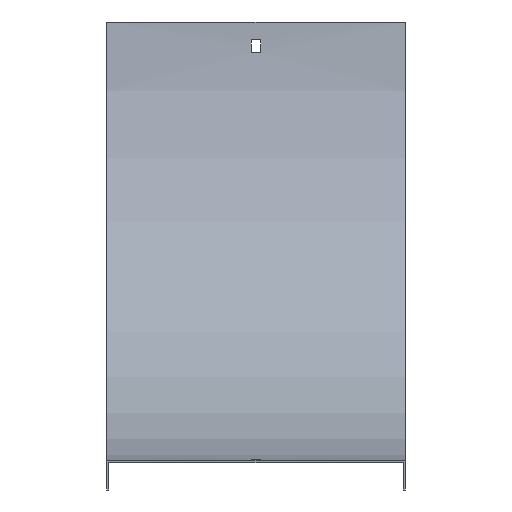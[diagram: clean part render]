
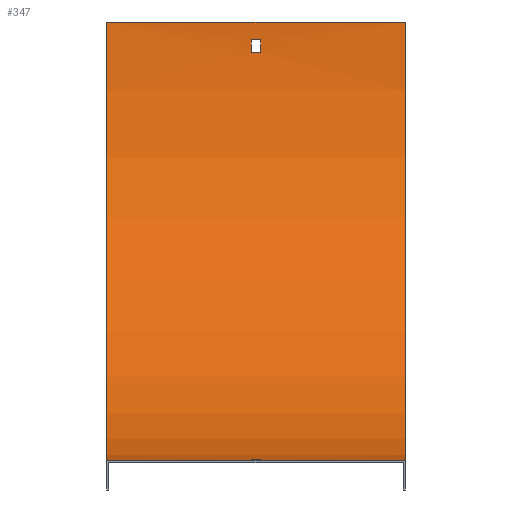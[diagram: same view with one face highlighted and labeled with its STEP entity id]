
A CAD part, top view. The second image highlights one B-rep face of the part: STEP entity #347.
In plain terms, the highlighted cylindrical face has radius 298.5 mm (diameter 597 mm), a partial arc.
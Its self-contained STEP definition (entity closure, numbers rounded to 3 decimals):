
#8 = EDGE_CURVE ( 'NONE', #482, #462, #427, .T. ) ;
#9 = VERTEX_POINT ( 'NONE', #394 ) ;
#14 = CARTESIAN_POINT ( 'NONE',  ( 101.5, 298.5, -298.5 ) ) ;
#15 = CIRCLE ( 'NONE', #145, 298.5 ) ;
#18 = CARTESIAN_POINT ( 'NONE',  ( 101.5, 298.5, 0. ) ) ;
#23 = CARTESIAN_POINT ( 'NONE',  ( -101.5, 298.5, 0. ) ) ;
#24 = CARTESIAN_POINT ( 'NONE',  ( 101.5, 0.241, -12. ) ) ;
#29 = FACE_BOUND ( 'NONE', #231, .T. ) ;
#38 = VECTOR ( 'NONE', #262, 1000. ) ;
#48 = LINE ( 'NONE', #526, #386 ) ;
#54 = EDGE_LOOP ( 'NONE', ( #458, #432, #478, #270 ) ) ;
#55 = EDGE_CURVE ( 'NONE', #412, #160, #346, .T. ) ;
#66 = DIRECTION ( 'NONE',  ( 0., 0., 1. ) ) ;
#93 = DIRECTION ( 'NONE',  ( 1., 0., 0. ) ) ;
#112 = CARTESIAN_POINT ( 'NONE',  ( 3.25, 277.5, -297.76 ) ) ;
#114 = DIRECTION ( 'NONE',  ( -1., 0., 0. ) ) ;
#124 = VECTOR ( 'NONE', #531, 1000. ) ;
#138 = CIRCLE ( 'NONE', #366, 298.5 ) ;
#139 = DIRECTION ( 'NONE',  ( -1., 0., 0. ) ) ;
#142 = ORIENTED_EDGE ( 'NONE', *, *, #215, .T. ) ;
#144 = ORIENTED_EDGE ( 'NONE', *, *, #269, .F. ) ;
#145 = AXIS2_PLACEMENT_3D ( 'NONE', #606, #93, #241 ) ;
#146 = LINE ( 'NONE', #468, #232 ) ;
#150 = VERTEX_POINT ( 'NONE', #452 ) ;
#155 = DIRECTION ( 'NONE',  ( 0., 0., -1. ) ) ;
#156 = ORIENTED_EDGE ( 'NONE', *, *, #555, .F. ) ;
#160 = VERTEX_POINT ( 'NONE', #594 ) ;
#182 = VERTEX_POINT ( 'NONE', #311 ) ;
#188 = DIRECTION ( 'NONE',  ( -1., 0., 0. ) ) ;
#198 = DIRECTION ( 'NONE',  ( -1., 0., 0. ) ) ;
#215 = EDGE_CURVE ( 'NONE', #510, #150, #146, .T. ) ;
#220 = EDGE_CURVE ( 'NONE', #462, #553, #48, .T. ) ;
#221 = LINE ( 'NONE', #595, #428 ) ;
#225 = VERTEX_POINT ( 'NONE', #368 ) ;
#231 = EDGE_LOOP ( 'NONE', ( #144, #598, #565, #156 ) ) ;
#232 = VECTOR ( 'NONE', #330, 1000. ) ;
#241 = DIRECTION ( 'NONE',  ( 0., 0., 1. ) ) ;
#243 = CIRCLE ( 'NONE', #493, 298.5 ) ;
#247 = EDGE_CURVE ( 'NONE', #160, #225, #15, .T. ) ;
#250 = CYLINDRICAL_SURFACE ( 'NONE', #400, 298.5 ) ;
#254 = CARTESIAN_POINT ( 'NONE',  ( 3.25, 298.5, 0. ) ) ;
#255 = CARTESIAN_POINT ( 'NONE',  ( -3.25, 277.5, -297.76 ) ) ;
#258 = EDGE_CURVE ( 'NONE', #473, #182, #424, .T. ) ;
#262 = DIRECTION ( 'NONE',  ( -1., 0., 0. ) ) ;
#269 = EDGE_CURVE ( 'NONE', #553, #332, #243, .T. ) ;
#270 = ORIENTED_EDGE ( 'NONE', *, *, #527, .T. ) ;
#276 = CARTESIAN_POINT ( 'NONE',  ( 101.5, 0., 0. ) ) ;
#291 = CARTESIAN_POINT ( 'NONE',  ( 3.25, 298.5, 0. ) ) ;
#296 = FACE_OUTER_BOUND ( 'NONE', #466, .T. ) ;
#311 = CARTESIAN_POINT ( 'NONE',  ( -101.5, 0., 0. ) ) ;
#318 = AXIS2_PLACEMENT_3D ( 'NONE', #340, #114, #430 ) ;
#322 = DIRECTION ( 'NONE',  ( 0., 1., 0. ) ) ;
#330 = DIRECTION ( 'NONE',  ( -1., 0., 0. ) ) ;
#332 = VERTEX_POINT ( 'NONE', #255 ) ;
#334 = CARTESIAN_POINT ( 'NONE',  ( 3.25, 0.241, -12. ) ) ;
#338 = EDGE_CURVE ( 'NONE', #510, #473, #590, .T. ) ;
#339 = AXIS2_PLACEMENT_3D ( 'NONE', #254, #397, #353 ) ;
#340 = CARTESIAN_POINT ( 'NONE',  ( 101.5, 298.5, 0. ) ) ;
#346 = LINE ( 'NONE', #24, #38 ) ;
#347 = ADVANCED_FACE ( 'NONE', ( #296, #487, #29 ), #250, .F. ) ;
#348 = DIRECTION ( 'NONE',  ( 0., 0., 1. ) ) ;
#353 = DIRECTION ( 'NONE',  ( 0., 0., 1. ) ) ;
#365 = CARTESIAN_POINT ( 'NONE',  ( -3.25, 298.5, 0. ) ) ;
#366 = AXIS2_PLACEMENT_3D ( 'NONE', #23, #198, #66 ) ;
#368 = CARTESIAN_POINT ( 'NONE',  ( -3.25, 0.74, -21. ) ) ;
#378 = CARTESIAN_POINT ( 'NONE',  ( 101.5, 0.74, -21. ) ) ;
#386 = VECTOR ( 'NONE', #188, 1000. ) ;
#394 = CARTESIAN_POINT ( 'NONE',  ( 3.25, 0.74, -21. ) ) ;
#397 = DIRECTION ( 'NONE',  ( 1., 0., 0. ) ) ;
#400 = AXIS2_PLACEMENT_3D ( 'NONE', #18, #437, #348 ) ;
#412 = VERTEX_POINT ( 'NONE', #334 ) ;
#413 = DIRECTION ( 'NONE',  ( -1., 0., 0. ) ) ;
#424 = LINE ( 'NONE', #276, #560 ) ;
#426 = ORIENTED_EDGE ( 'NONE', *, *, #439, .T. ) ;
#427 = CIRCLE ( 'NONE', #339, 298.5 ) ;
#428 = VECTOR ( 'NONE', #457, 1000. ) ;
#430 = DIRECTION ( 'NONE',  ( 0., 0., 1. ) ) ;
#432 = ORIENTED_EDGE ( 'NONE', *, *, #247, .T. ) ;
#437 = DIRECTION ( 'NONE',  ( -1., 0., 0. ) ) ;
#439 = EDGE_CURVE ( 'NONE', #150, #182, #138, .T. ) ;
#452 = CARTESIAN_POINT ( 'NONE',  ( -101.5, 298.5, -298.5 ) ) ;
#457 = DIRECTION ( 'NONE',  ( 1., 0., 0. ) ) ;
#458 = ORIENTED_EDGE ( 'NONE', *, *, #55, .T. ) ;
#462 = VERTEX_POINT ( 'NONE', #569 ) ;
#466 = EDGE_LOOP ( 'NONE', ( #426, #604, #532, #142 ) ) ;
#468 = CARTESIAN_POINT ( 'NONE',  ( 101.5, 298.5, -298.5 ) ) ;
#473 = VERTEX_POINT ( 'NONE', #476 ) ;
#476 = CARTESIAN_POINT ( 'NONE',  ( 101.5, 0., 0. ) ) ;
#478 = ORIENTED_EDGE ( 'NONE', *, *, #518, .T. ) ;
#481 = DIRECTION ( 'NONE',  ( -1., 0., 0. ) ) ;
#482 = VERTEX_POINT ( 'NONE', #112 ) ;
#487 = FACE_BOUND ( 'NONE', #54, .T. ) ;
#488 = LINE ( 'NONE', #378, #124 ) ;
#493 = AXIS2_PLACEMENT_3D ( 'NONE', #365, #139, #322 ) ;
#510 = VERTEX_POINT ( 'NONE', #14 ) ;
#514 = AXIS2_PLACEMENT_3D ( 'NONE', #291, #481, #155 ) ;
#518 = EDGE_CURVE ( 'NONE', #225, #9, #488, .T. ) ;
#526 = CARTESIAN_POINT ( 'NONE',  ( 101.5, 286.5, -298.259 ) ) ;
#527 = EDGE_CURVE ( 'NONE', #9, #412, #561, .T. ) ;
#531 = DIRECTION ( 'NONE',  ( 1., 0., 0. ) ) ;
#532 = ORIENTED_EDGE ( 'NONE', *, *, #338, .F. ) ;
#542 = CARTESIAN_POINT ( 'NONE',  ( -3.25, 286.5, -298.259 ) ) ;
#553 = VERTEX_POINT ( 'NONE', #542 ) ;
#555 = EDGE_CURVE ( 'NONE', #332, #482, #221, .T. ) ;
#560 = VECTOR ( 'NONE', #413, 1000. ) ;
#561 = CIRCLE ( 'NONE', #514, 298.5 ) ;
#565 = ORIENTED_EDGE ( 'NONE', *, *, #8, .F. ) ;
#569 = CARTESIAN_POINT ( 'NONE',  ( 3.25, 286.5, -298.259 ) ) ;
#590 = CIRCLE ( 'NONE', #318, 298.5 ) ;
#594 = CARTESIAN_POINT ( 'NONE',  ( -3.25, 0.241, -12. ) ) ;
#595 = CARTESIAN_POINT ( 'NONE',  ( 101.5, 277.5, -297.76 ) ) ;
#598 = ORIENTED_EDGE ( 'NONE', *, *, #220, .F. ) ;
#604 = ORIENTED_EDGE ( 'NONE', *, *, #258, .F. ) ;
#606 = CARTESIAN_POINT ( 'NONE',  ( -3.25, 298.5, 0. ) ) ;
